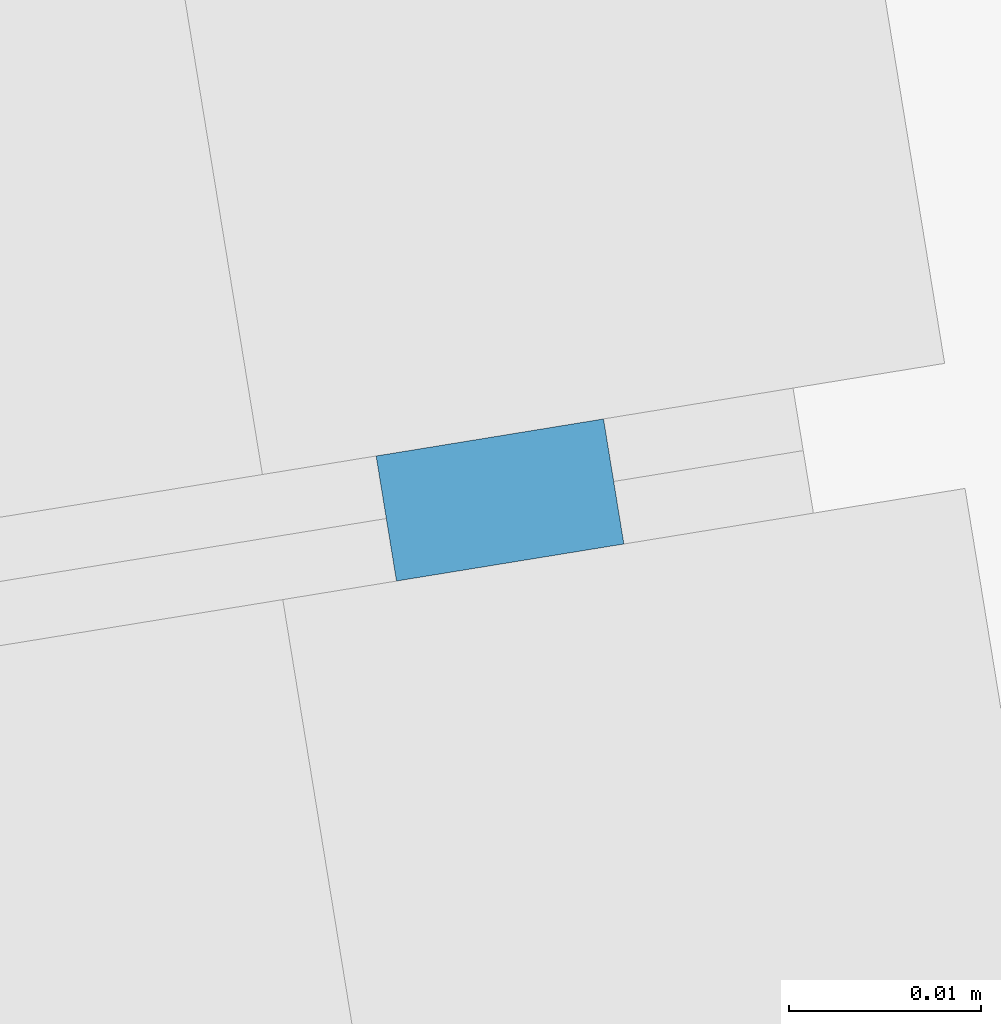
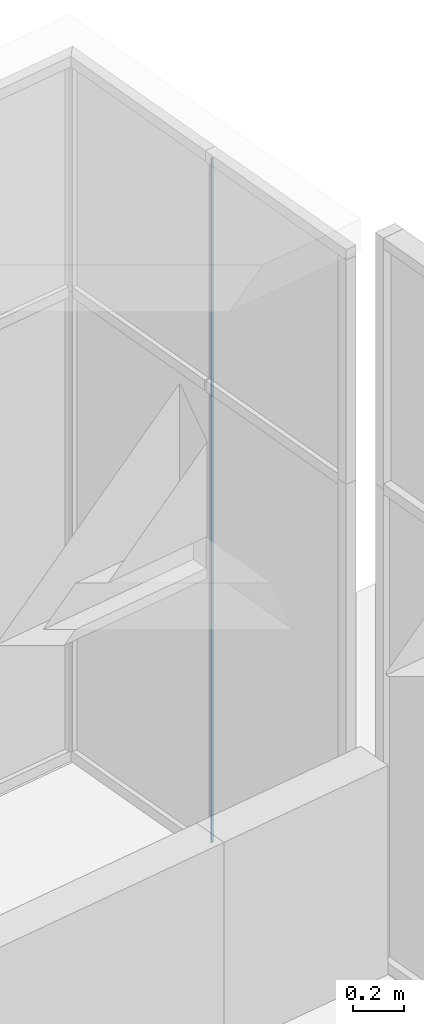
# One storey, part 7 of 13: 2 members, 1 element without a shape of its own.
"""IFC2X3 building model written with IfcOpenShell, lengths in millimetres."""

from ifc_helpers import new_model, entity, si_unit, converted_unit, derived_unit, direction, frame, origin, origin_with_axes, origin_2d_with_axis, place, context, subcontext, project, spatial, rectangle, extrude, source, transform, mapped, material, type_object, element, aggregate, save


model = new_model("IFC2X3")

# Units and contexts
plan_context = context("Plan", 3, precision=1e-05, world=origin_with_axes())
model_context = context("Model", 3, precision=0.01, world=origin(), true_north=direction((6.12323399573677e-17, 1.0)))
body_context = subcontext(model_context, "Body", "Model", "MODEL_VIEW")
ifc_project = project(units=[converted_unit("PLANEANGLEUNIT", "DEGREE", entity("IfcPositiveLengthMeasure", 0.0174532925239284), si_unit("PLANEANGLEUNIT", "RADIAN"), dimensions=[0, 0, 0, 0, 0, 0, 0]), si_unit("AREAUNIT", "SQUARE_METRE"), si_unit("LENGTHUNIT", "METRE", prefix="MILLI"), si_unit("MASSUNIT", "GRAM", prefix="KILO"), si_unit("POWERUNIT", "WATT"), si_unit("PRESSUREUNIT", "PASCAL", prefix="KILO"), si_unit("FORCEUNIT", "NEWTON", prefix="KILO"), si_unit("ELECTRICVOLTAGEUNIT", "VOLT"), si_unit("ELECTRICCURRENTUNIT", "AMPERE"), si_unit("THERMODYNAMICTEMPERATUREUNIT", "DEGREE_CELSIUS"), si_unit("TIMEUNIT", "SECOND"), si_unit("VOLUMEUNIT", "CUBIC_METRE"), derived_unit("LINEARVELOCITYUNIT", [(si_unit("LENGTHUNIT", "METRE"), 1), (si_unit("TIMEUNIT", "SECOND"), -1)]), derived_unit("VOLUMETRICFLOWRATEUNIT", [(si_unit("VOLUMEUNIT", "CUBIC_METRE"), 1), (si_unit("TIMEUNIT", "SECOND"), -1)]), derived_unit("THERMALTRANSMITTANCEUNIT", [(si_unit("POWERUNIT", "WATT"), 1), (si_unit("THERMODYNAMICTEMPERATUREUNIT", "KELVIN"), -1), (si_unit("AREAUNIT", "SQUARE_METRE"), -1)]), derived_unit("SOUNDPRESSUREUNIT", [(si_unit("PRESSUREUNIT", "PASCAL"), 1)])], contexts=[model_context, plan_context])

# Site, building, storey
site_placement = place(None, frame((-305029.896016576, -232111.759730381, 0.0), z_axis=(0.0, 0.0, 1.0), x_axis=(-0.160806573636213, 0.986985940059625, 0.0)))
site = spatial("IfcSite", under=ifc_project, at=site_placement, Name="Default", CompositionType="ELEMENT")
building_placement = place(site_placement, frame((0.0, 0.0, 0.0), z_axis=(0.0, 0.0, 1.0), x_axis=(1.0, -2.77555756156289e-17, 0.0)))
building = spatial("IfcBuilding", under=site, at=building_placement, Name="br001-a-200-1-0001", CompositionType="ELEMENT")
storey_placement = place(building_placement, frame((0.0, 0.0, 51360.0000000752), z_axis=(0.0, 0.0, 1.0), x_axis=(1.0, -2.77555756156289e-17, 0.0)))
storey = spatial("IfcBuildingStorey", under=building, at=storey_placement, Name="H01-Nivå D+0,36", CompositionType="ELEMENT", Elevation=51360.0000000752)

# Curtain wall, members
curtain_wall_type = type_object("IfcCurtainWallType", Name="Curtain Wall:A243 Innvendig glassvegg", PredefinedType="NOTDEFINED")
curtain_wall_placement = place(storey_placement, frame((0.0, 0.0, -51360.0000000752), z_axis=(0.0, 0.0, 1.0), x_axis=(1.0, -2.77555756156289e-17, 0.0)))
curtain_wall = element("IfcCurtainWall", 1, at=curtain_wall_placement, inside=storey, type_object=curtain_wall_type, Name="Curtain Wall:A243 Innvendig glassvegg", ObjectType="Curtain Wall:A243 Innvendig glassvegg")
ifc_material = material(Name="T2 - Rubber")
member_type_1 = type_object("IfcMemberType", Name="Rectangular Mullion:6.66x12", PredefinedType="MULLION", material=ifc_material)
shared_shape_1 = source(origin(), body_context, "Body", "SweptSolid", [
    extrude(rectangle(XDim=6.6, YDim=12.0, at=origin_2d_with_axis()), frame((0.0, 6.0, -2196.66666667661), z_axis=(0.0, 0.0, 1.0), x_axis=(-1.0, 0.0, 0.0)), (0.0, 0.0, 1.0), 2196.6666666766),
])
member_1_placement = place(curtain_wall_placement, frame((1159386.09858442, -711086.378367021, 51410.0000000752), z_axis=(0.0, 0.0, -1.0), x_axis=(-1.0, 2.77555756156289e-17, 0.0)))
member_1 = element("IfcMember", 2, at=member_1_placement, type_object=member_type_1, material=ifc_material, Name="Rectangular Mullion:6.66x12", ObjectType="Rectangular Mullion:6.66x12", context=body_context, shape_type="MappedRepresentation", body=[
    mapped(shared_shape_1, transform((0.0, 0.0, 0.0), scale=1.0)),
])
member_type_2 = type_object("IfcMemberType", Name="Rectangular Mullion:6.66x12", PredefinedType="MULLION", material=ifc_material)
shared_shape_2 = source(origin(), body_context, "Body", "SweptSolid", [
    extrude(rectangle(XDim=6.6, YDim=12.0, at=origin_2d_with_axis()), frame((0.0, 6.0, -1073.3333333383), z_axis=(0.0, 0.0, 1.0), x_axis=(-1.0, 0.0, 0.0)), (0.0, 0.0, 1.0), 1073.3333333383),
])
member_2_placement = place(curtain_wall_placement, frame((1159386.09858442, -711086.378367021, 53606.6666667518), z_axis=(0.0, 0.0, -1.0), x_axis=(-1.0, 2.77555756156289e-17, 0.0)))
member_2 = element("IfcMember", 3, at=member_2_placement, type_object=member_type_2, material=ifc_material, Name="Rectangular Mullion:6.66x12", ObjectType="Rectangular Mullion:6.66x12", context=body_context, shape_type="MappedRepresentation", body=[
    mapped(shared_shape_2, transform((0.0, 0.0, 0.0), scale=1.0)),
])
aggregate(curtain_wall, [member_1, member_2])

save(model, "model.ifc")
